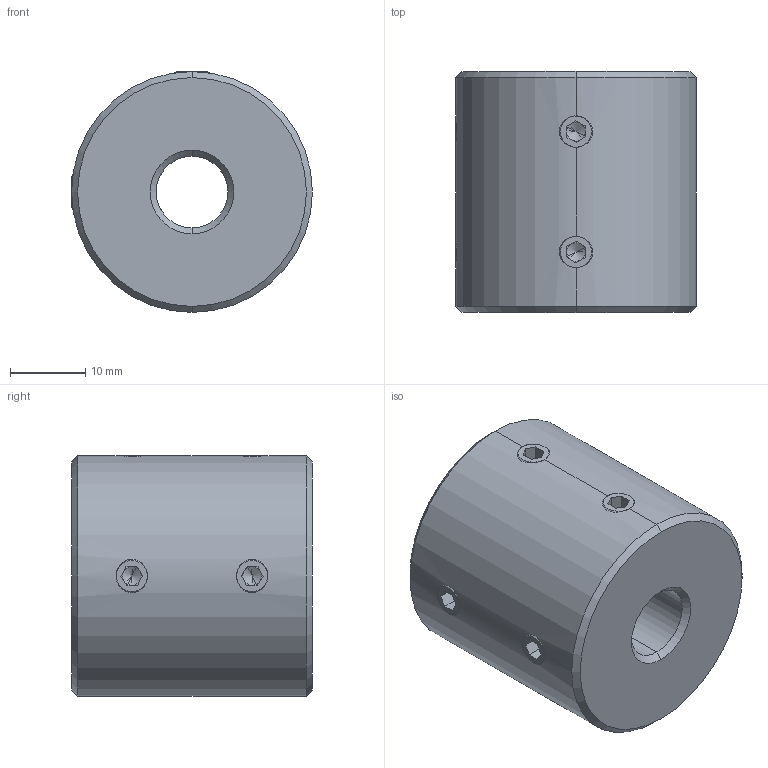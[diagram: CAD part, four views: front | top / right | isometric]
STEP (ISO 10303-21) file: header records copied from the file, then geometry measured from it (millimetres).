
FILE_DESCRIPTION (( 'STEP AP214' ), '1' );
FILE_NAME ('LL-D-D32L32-9.525-9.525½¨Ä£.STEP', '2022-07-22T11:26:12', ( '' ), ( '' ), 'SwSTEP 2.0', 'SolidWorks 2022', '' );
FILE_SCHEMA (( 'AUTOMOTIVE_DESIGN' ));
Length unit declared in the file: millimetre
Products named in the file (1): LL-D-D32L32-9.525-9.525膘耀
Bounding box: 32 x 32 x 32 mm (x, y, z)
Volume: 23137.2 mm3; surface area: 5800.2 mm2
Topology: 1 solids, 1 shells, 110 faces, 280 edges, 172 vertices
Faces by surface type: plane 58, cone 32, cylinder 20
Entity records: 3662 total; most frequent: CARTESIAN_POINT 1019, ORIENTED_EDGE 544, DIRECTION 542, EDGE_CURVE 272, AXIS2_PLACEMENT_3D 199, VERTEX_POINT 172, LINE 144, VECTOR 144
